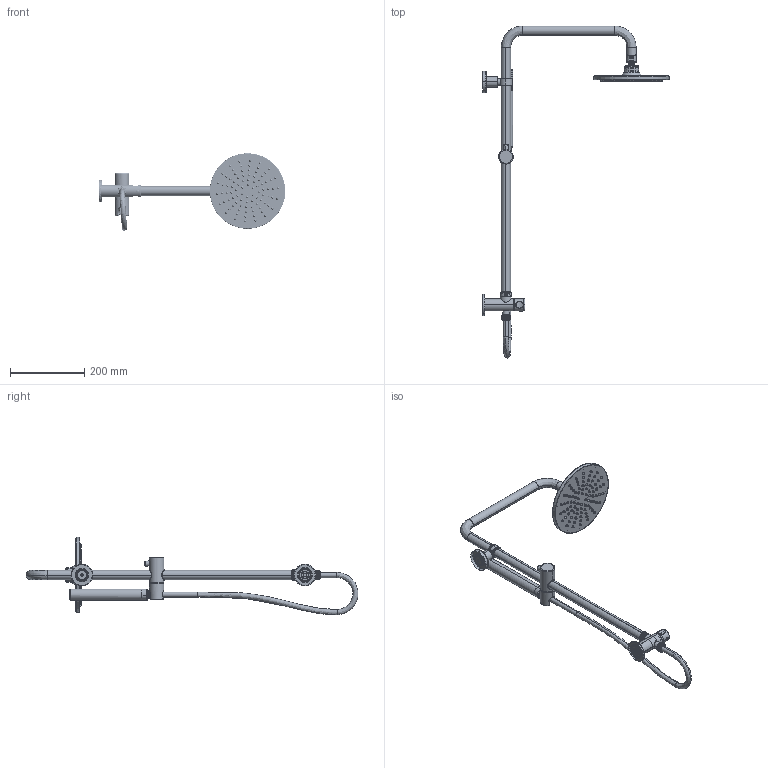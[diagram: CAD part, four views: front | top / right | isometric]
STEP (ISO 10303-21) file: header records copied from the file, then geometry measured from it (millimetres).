
FILE_DESCRIPTION (( 'STEP AP214' ), '1' );
FILE_NAME ('Hi-RDN-976A283B.STEP', '2021-07-23T01:32:44', ( '' ), ( '' ), 'SwSTEP 2.0', 'SolidWorks 2020', '' );
FILE_SCHEMA (( 'AUTOMOTIVE_DESIGN' ));
Length unit declared in the file: millimetre
Products named in the file (49): L-DZZJ_ASM_5; BD25-ZT_5; BD25ZTHJZJ_5; 803A_QS_923_ASM_5; 813SBF_923_5; BD25-ZTJTS_5; GJ04_5; 803A_QTLS__923_5; GJ07_5; D400HL-1_5; 283-MFJD_4; D400HL_WG_ASM_5; 283-SB_4; 150SC_RG_923_6; 976A_JD_923_5; 23D_SJZ_6; 283-ZSL_4; GJ06_5; BD25-GJ07_5; BD25-BS_5; 23D_SJZ_6-swivel; D400HL-2_5; GJ0001__5; 976A_SB_923_5; Hi-976A; 283-HS_ASM_4; T4018-2-FXL_5; BD25-DZZJ_ASM_5; 976A_MJDZJ_923_ASM_5; BD25-LTZHF_ASM_5; 3_4JD_5; D400HL-4_ASM_5; Q25_5; LGJD_4; YWJD_923_5; GJ05_5; 30A_NGJT_923_5; 803A_QS_923_5; D400HL_WG_5; 150SC_923_ASM_5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
Assembly tree (138 placements, depth 5):
  Hi-RDN-976A283B
    BD25-LTZHF_ASM_5
      BD25-ZTHJFJT_ASM_5
        BD25-ZT_5
        BD25ZTHJZJ_5
      BD25-BS_5
      T4018-2-FXL_5
      BD25-ZTJTS_5
      BD25_ZTJTX_5
      BD25-DZZJ_ASM_5
        GJ0001__5
        BD25-GJ07_5
    D400HL_WG_ASM_5
      D400HL_WG_5
      D400HL_WGJT_5
    Q25_5
    YWJD_923_5
    23D_SJZ_6
    150SC_923_ASM_5
      150SC_RG_923_6
      30A_NGJT_923_5
    813SBF_923_5
    3_4JD_5
    D400HL-4_ASM_5
      D400HL-1_5
      D400HL-2_5
      203A_5  x2
    L-DZZJ_ASM_5
      GJ04_5
      GJ05_5
      GJ06_5
      GJ07_5
    Hi-976A
      976A_SBHJZJ_923_ASM_5
        976A_MJDZJ_923_ASM_5
          976A_MB_923_5
          976A_JD_923_5  x90
        976A_SB_923_5
      990A_QSG_923_5
      803A_QS_923_ASM_5
        803A_QS_923_5
        803A_QTLS__923_5
    283-HS_ASM_4
      283-SB_4
      LGJD_4
      283-J_4
      283-MFJD_4
      283-ZSL_4
    23D_SJZ_6-swivel
Bounding box: 501.78 x 893.44 x 208.22 mm (x, y, z)
Volume: 879797.9 mm3; surface area: 529241.6 mm2
Topology: 124 solids, 128 shells, 2636 faces, 6325 edges, 3978 vertices
Faces by surface type: plane 876, cylinder 694, bspline 529, torus 300, cone 237
Entity records: 119892 total; most frequent: CARTESIAN_POINT 71949, ORIENTED_EDGE 10210, DIRECTION 8572, EDGE_CURVE 5110, VERTEX_POINT 3250, AXIS2_PLACEMENT_3D 3231, EDGE_LOOP 2233, LINE 2110
